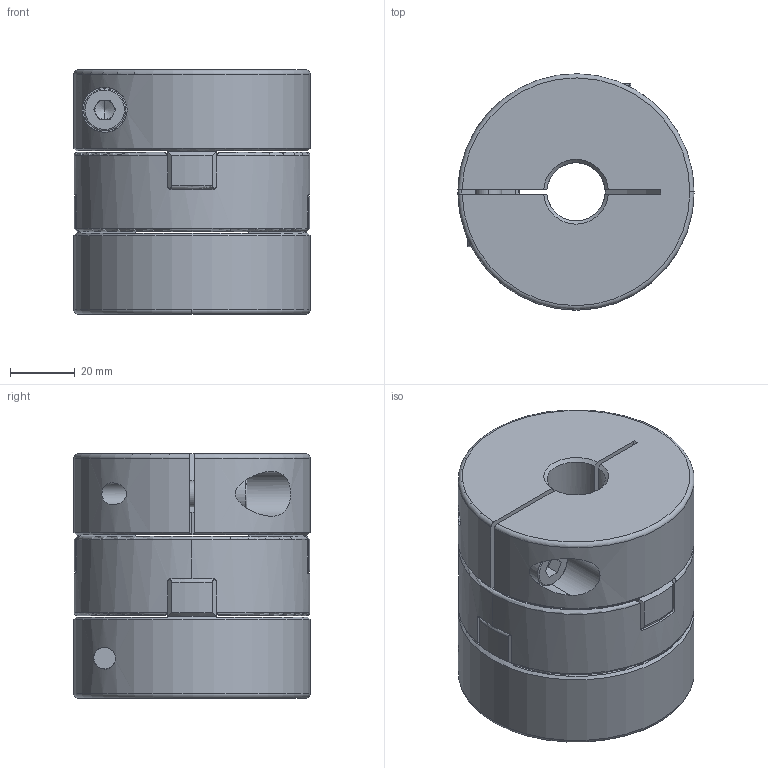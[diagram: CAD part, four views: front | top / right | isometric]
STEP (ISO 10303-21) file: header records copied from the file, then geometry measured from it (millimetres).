
FILE_DESCRIPTION (( 'STEP AP203' ), '1' );
FILE_NAME ('SOHM-70C-18X35_203.STEP', '2013-01-30T07:25:37', ( '' ), ( '' ), 'SwSTEP 2.0', 'SolidWorks 2012', '' );
FILE_SCHEMA (( 'CONFIG_CONTROL_DESIGN' ));
Length unit declared in the file: millimetre
Products named in the file (1): SOHM-70C-18X35_203
Bounding box: 73 x 73 x 75.5 mm (x, y, z)
Volume: 249540.5 mm3; surface area: 48797 mm2
Topology: 1 solids, 1 shells, 219 faces, 591 edges, 356 vertices
Faces by surface type: plane 108, cylinder 55, torus 29, cone 27
Entity records: 7569 total; most frequent: CARTESIAN_POINT 2090, ORIENTED_EDGE 1174, DIRECTION 1102, EDGE_CURVE 587, AXIS2_PLACEMENT_3D 410, VERTEX_POINT 356, VECTOR 282, LINE 282
